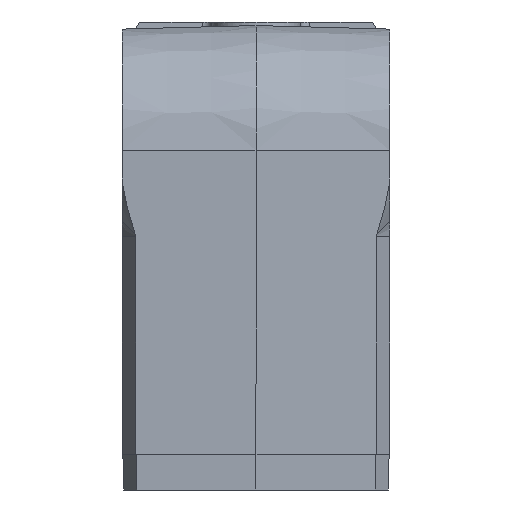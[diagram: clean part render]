
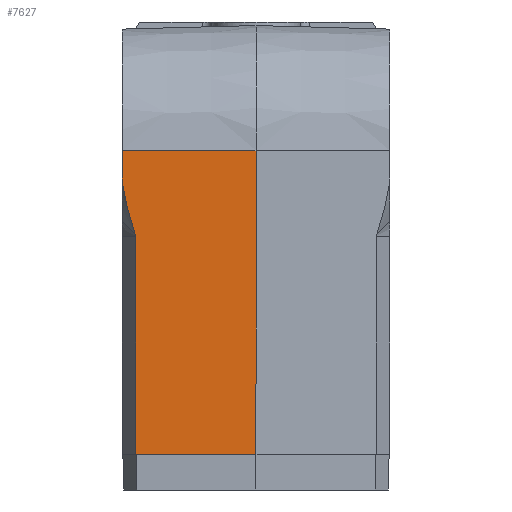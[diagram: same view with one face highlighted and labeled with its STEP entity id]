
A CAD part, left-side view. The second image highlights one B-rep face of the part: STEP entity #7627.
In plain terms, the highlighted planar face has unit normal (-1, 0.026, 0).
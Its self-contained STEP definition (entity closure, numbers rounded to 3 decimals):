
#543=DIRECTION('',(0.,0.,-1.));
#544=VECTOR('',#543,1.646);
#545=CARTESIAN_POINT('',(-17.804,7.5,17.));
#546=LINE('',#545,#544);
#1166=DIRECTION('',(-0.026,-1.,0.));
#1167=VECTOR('',#1166,0.051);
#1168=CARTESIAN_POINT('',(-17.824,6.736,0.));
#1169=LINE('',#1168,#1167);
#1215=DIRECTION('',(0.026,1.,0.));
#1216=VECTOR('',#1215,6.687);
#1217=CARTESIAN_POINT('',(-18.,0.,0.));
#1218=LINE('',#1217,#1216);
#1222=DIRECTION('',(0.,0.,1.));
#1223=VECTOR('',#1222,12.178);
#1224=CARTESIAN_POINT('',(-17.824,6.736,0.));
#1225=LINE('',#1224,#1223);
#1229=CARTESIAN_POINT('',(-17.824,6.736,12.178));
#1230=CARTESIAN_POINT('',(-17.824,6.736,12.185));
#1231=CARTESIAN_POINT('',(-17.824,6.736,12.198));
#1232=CARTESIAN_POINT('',(-17.824,6.738,12.218));
#1233=CARTESIAN_POINT('',(-17.823,6.741,12.238));
#1234=CARTESIAN_POINT('',(-17.823,6.746,12.258));
#1235=CARTESIAN_POINT('',(-17.823,6.751,12.278));
#1236=CARTESIAN_POINT('',(-17.823,6.756,12.293));
#1237=CARTESIAN_POINT('',(-17.823,6.758,12.3));
#1242=CARTESIAN_POINT('',(-17.823,6.758,12.3));
#1243=CARTESIAN_POINT('',(-17.822,6.787,12.387));
#1244=CARTESIAN_POINT('',(-17.821,6.845,12.564));
#1245=CARTESIAN_POINT('',(-17.818,6.933,12.848));
#1246=CARTESIAN_POINT('',(-17.816,7.017,13.131));
#1247=CARTESIAN_POINT('',(-17.814,7.093,13.401));
#1248=CARTESIAN_POINT('',(-17.813,7.158,13.647));
#1249=CARTESIAN_POINT('',(-17.811,7.216,13.879));
#1250=CARTESIAN_POINT('',(-17.81,7.27,14.107));
#1251=CARTESIAN_POINT('',(-17.808,7.322,14.339));
#1252=CARTESIAN_POINT('',(-17.807,7.373,14.587));
#1253=CARTESIAN_POINT('',(-17.806,7.421,14.845));
#1254=CARTESIAN_POINT('',(-17.805,7.464,15.104));
#1255=CARTESIAN_POINT('',(-17.804,7.489,15.271));
#1256=CARTESIAN_POINT('',(-17.804,7.5,15.354));
#1261=DIRECTION('',(-0.026,-1.,0.));
#1262=VECTOR('',#1261,7.503);
#1263=CARTESIAN_POINT('',(-17.804,7.5,17.));
#1264=LINE('',#1263,#1262);
#1268=DIRECTION('',(0.,0.,1.));
#1269=VECTOR('',#1268,17.);
#1270=CARTESIAN_POINT('',(-18.,0.,0.));
#1271=LINE('',#1270,#1269);
#5968=CARTESIAN_POINT('',(-17.804,7.5,15.354));
#5969=VERTEX_POINT('',#5968);
#5990=CARTESIAN_POINT('',(-17.824,6.736,0.));
#5991=VERTEX_POINT('',#5990);
#5994=CARTESIAN_POINT('',(-17.824,6.736,12.178));
#5995=VERTEX_POINT('',#5994);
#5996=CARTESIAN_POINT('',(-17.823,6.758,12.3));
#5997=VERTEX_POINT('',#5996);
#6078=CARTESIAN_POINT('',(-17.804,7.5,17.));
#6080=VERTEX_POINT('',#6078);
#6094=CARTESIAN_POINT('',(-18.,0.,17.));
#6096=VERTEX_POINT('',#6094);
#6446=CARTESIAN_POINT('',(-18.,0.,0.));
#6448=VERTEX_POINT('',#6446);
#6449=CARTESIAN_POINT('',(-17.825,6.685,
0.));
#6450=VERTEX_POINT('',#6449);
#7607=CARTESIAN_POINT('',(-17.804,7.5,17.));
#7608=DIRECTION('',(1.,-0.026,0.));
#7609=DIRECTION('',(-0.026,-1.,0.));
#7610=AXIS2_PLACEMENT_3D('',#7607,#7608,#7609);
#7611=PLANE('',#7610);
#7612=ORIENTED_EDGE('',*,*,#7590,.T.);
#7613=ORIENTED_EDGE('',*,*,#7524,.F.);
#7615=ORIENTED_EDGE('',*,*,#7614,.T.);
#7617=ORIENTED_EDGE('',*,*,#7616,.T.);
#7619=ORIENTED_EDGE('',*,*,#7618,.T.);
#7620=ORIENTED_EDGE('',*,*,#6950,.F.);
#7622=ORIENTED_EDGE('',*,*,#7621,.T.);
#7624=ORIENTED_EDGE('',*,*,#7623,.F.);
#7625=EDGE_LOOP('',(#7612,#7613,#7615,#7617,#7619,#7620,#7622,#7624));
#7626=FACE_OUTER_BOUND('',#7625,.F.);
#1238=B_SPLINE_CURVE_WITH_KNOTS('',3,(#1229,#1230,#1231,#1232,#1233,#1234,#1235,
#1236,#1237),.UNSPECIFIED.,.F.,.F.,(4,1,1,1,1,1,4),(0.,0.167,
0.333,0.5,0.667,0.833,1.),
.UNSPECIFIED.);
#1257=B_SPLINE_CURVE_WITH_KNOTS('',3,(#1242,#1243,#1244,#1245,#1246,#1247,#1248,
#1249,#1250,#1251,#1252,#1253,#1254,#1255,#1256),.UNSPECIFIED.,.F.,.F.,(4,1,1,1,
1,1,1,1,1,1,1,1,4),(0.,0.083,0.167,0.25,
0.333,0.417,0.5,0.583,0.667,
0.75,0.833,0.917,1.),.UNSPECIFIED.);
#6950=EDGE_CURVE('',#6080,#5969,#546,.T.);
#7524=EDGE_CURVE('',#5991,#6450,#1169,.T.);
#7590=EDGE_CURVE('',#6448,#6450,#1218,.T.);
#7614=EDGE_CURVE('',#5991,#5995,#1225,.T.);
#7616=EDGE_CURVE('',#5995,#5997,#1238,.T.);
#7618=EDGE_CURVE('',#5997,#5969,#1257,.T.);
#7621=EDGE_CURVE('',#6080,#6096,#1264,.T.);
#7623=EDGE_CURVE('',#6448,#6096,#1271,.T.);
#7627=ADVANCED_FACE('',(#7626),#7611,.F.);
